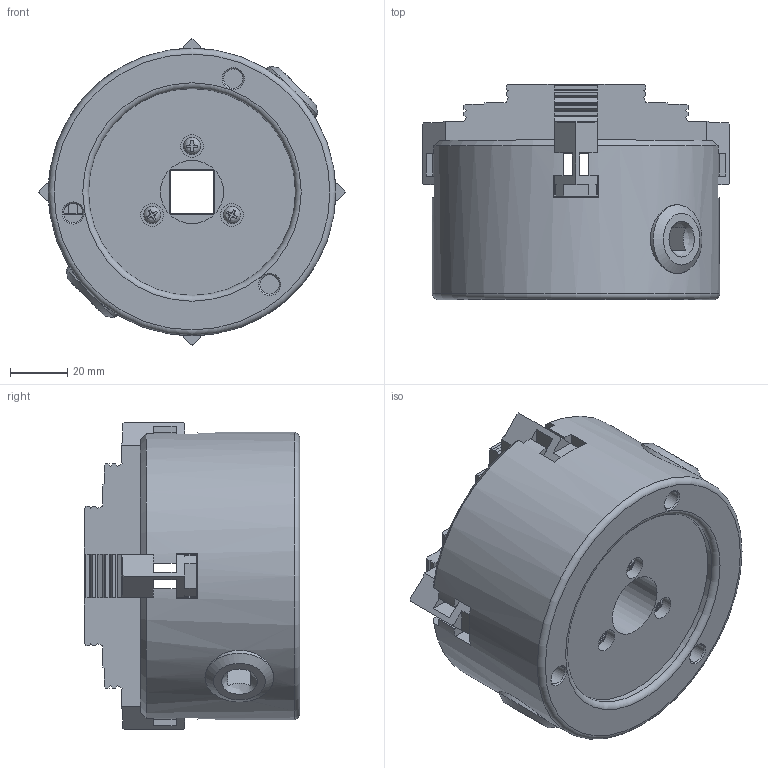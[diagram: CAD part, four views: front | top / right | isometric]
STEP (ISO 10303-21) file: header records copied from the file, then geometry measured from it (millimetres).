
FILE_DESCRIPTION(/* description */ (''),/* implementation_level */ '2;1');
FILE_NAME(/* name */ 'K12-100.stp',/* time_stamp */ '2025-10-16T11:17:07+03:00',/* author */ ('Arina Rekina'),/* organization */ (''),/* preprocessor_version */ 'ST-DEVELOPER v19.2',/* originating_system */ 'Autodesk Inventor 2024',/* authorisation */ '');
FILE_SCHEMA (('AUTOMOTIVE_DESIGN { 1 0 10303 214 3 1 1 }'));
Length unit declared in the file: millimetre
Products named in the file (3): K12-160; Часть 1; Часть 2
Assembly tree (5 placements, depth 2):
  K12-160
    Часть 1
    Часть 2  x4
Bounding box: 107 x 75 x 107 mm (x, y, z)
Volume: 414204.8 mm3; surface area: 72460.1 mm2
Topology: 5 solids, 5 shells, 441 faces, 1250 edges, 831 vertices
Faces by surface type: plane 404, cylinder 17, cone 13, bspline 5, torus 2
Full cylindrical faces by diameter (mm): 6.7 x3, 8 x3, 22 x1, 72 x1, 100 x1
Entity records: 7833 total; most frequent: CARTESIAN_POINT 1853, ORIENTED_EDGE 1258, DIRECTION 1127, EDGE_CURVE 629, LINE 445, VECTOR 445, VERTEX_POINT 417, AXIS2_PLACEMENT_3D 341
